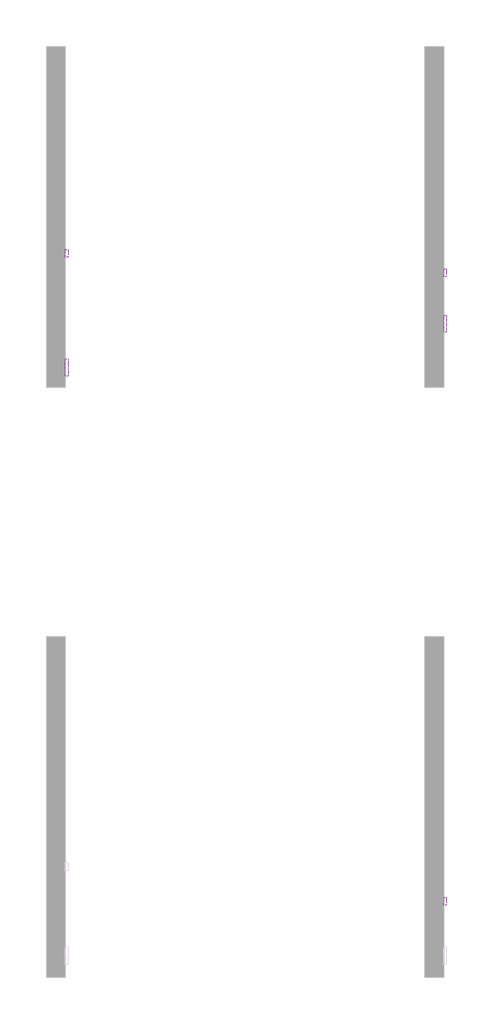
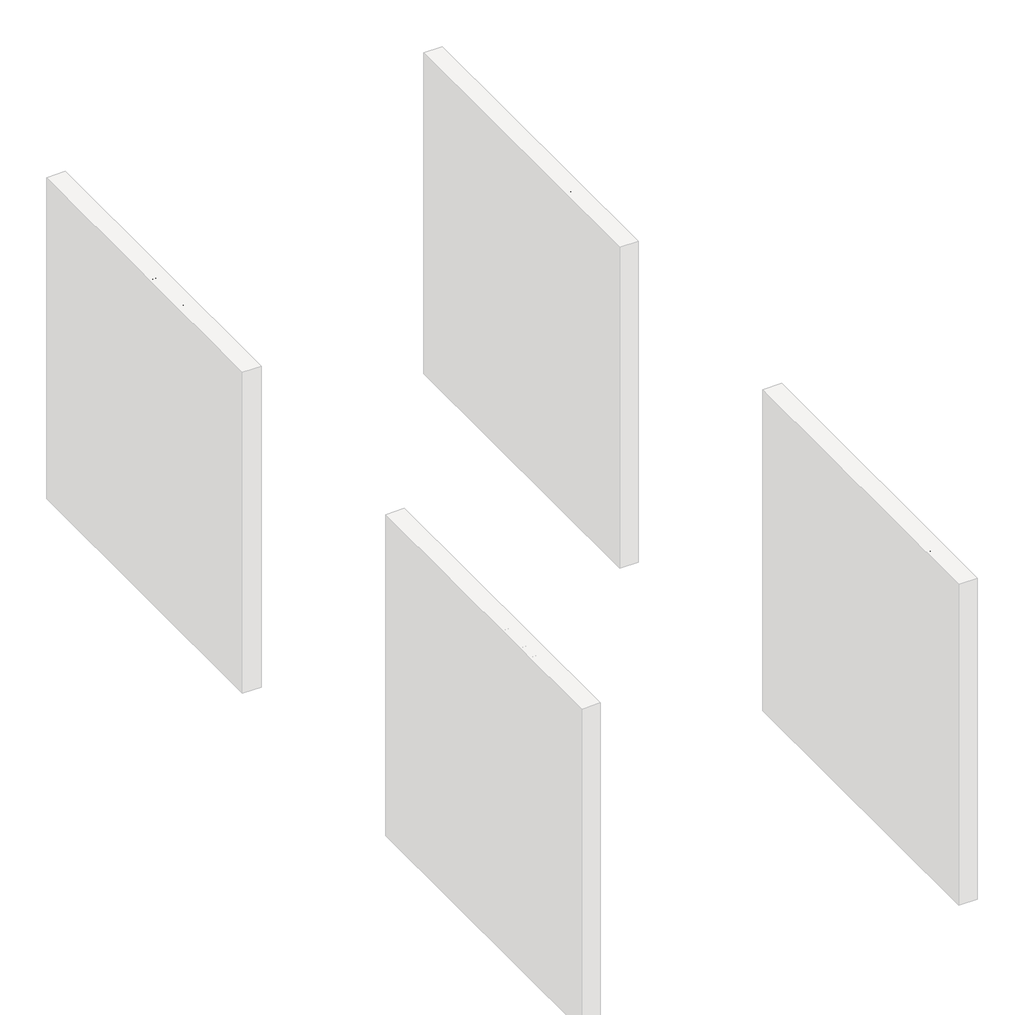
# One storey, part 8 of 12: 5 proxies.
"""IFC4 building model written with IfcOpenShell, lengths in millimetres."""

from ifc_helpers import new_model, si_unit, frame, origin, place, context, project, spatial, polyline, outline, extrude, element, save

model = new_model("IFC4")

# Units and contexts
model_context = context("Model", 3, world=origin())
ifc_project = project(units=[si_unit("LENGTHUNIT", "METRE", prefix="MILLI")], contexts=[model_context])

# Site, building, storey
site = spatial("IfcSite", under=ifc_project)
building = spatial("IfcBuilding", under=site)
storey = spatial("IfcBuildingStorey", under=building, Name="PORTOBELLO - SHOWROOM", Elevation=0.0)

# Proxies
placement = place(None, origin())
element("IfcBuildingElementProxy", 1, Name="10mm Arial", ObjectType="10mm Arial", at=placement, inside=storey, context=model_context, shape_type="SweptSolid", body=[
    extrude(outline(polyline([(6538.9054175, 2521.8608633), (6538.9054175, 2622.3171735), (6576.1350754, 2622.3171735), (6591.1446608, 2621.3606803), (6603.3460803, 2616.6640535), (6611.2555432, 2606.9519688), (6614.2476501, 2593.2544958), (6612.2273648, 2581.414827), (6606.1665089, 2571.5494581), (6594.8326778, 2564.890794), (6576.9934667, 2562.6712393), (6551.4624562, 2562.6712393), (6551.4624562, 2521.8608633), (6538.9054175, 2521.8608633)]), holes=[polyline([(6551.4624562, 2575.2282781), (6577.7292307, 2575.2282781), (6596.2214323, 2579.8390657), (6600.3233166, 2585.3879525), (6601.6906113, 2592.8130374), (6598.4655125, 2603.2118352), (6589.9919639, 2608.9017434), (6577.4349251, 2609.7601347), (6551.4624562, 2609.7601347), (6551.4624562, 2575.2282781)])]), frame((37348.7766485, 0.0, 0.0), z_axis=(1.0, 0.0, 0.0), x_axis=(0.0, 1.0, 0.0)), (0.0, 0.0, 1.0), 20.0),
    extrude(outline(polyline([(37368.7766485, 6642.5009873), (37368.7766485, 6629.9439485), (37348.7766485, 6629.9439485), (37348.7766485, 6642.5009873), (37368.7766485, 6642.5009873)])), frame((0.0, 0.0, 2521.8608633), z_axis=(0.0, 0.0, 1.0), x_axis=(1.0, 0.0, 0.0)), (0.0, 0.0, 1.0), 100.4563101),
    extrude(outline(polyline([(6708.4254408, 2531.2786424), (6696.2485468, 2522.7683056), (6682.7963285, 2520.2912335), (6672.3024946, 2521.7811555), (6664.5616443, 2526.2509218), (6659.7883754, 2533.0383446), (6658.1972858, 2541.4812364), (6660.6007815, 2551.4140503), (6666.9160891, 2558.6245374), (6675.7084687, 2562.7448157), (6686.5732503, 2564.6332766), (6708.3518644, 2568.9497587), (6708.4254408, 2571.7456619), (6704.9673501, 2581.0162881), (6691.0859361, 2584.6460572), (6678.3817446, 2582.2302987), (6672.3239544, 2573.6586482), (6659.7669156, 2575.2282781), (6665.1993064, 2587.4910112), (6676.1376644, 2594.6769729), (6692.7046169, 2597.2030959), (6707.9226688, 2594.9712785), (6716.5188447, 2589.3672094), (6720.369343, 2580.8446099), (6720.9824796, 2569.8572009), (6720.9824796, 2554.2344789), (6721.6201417, 2532.4190766), (6724.1217393, 2521.8608633), (6711.5647005, 2521.8608633), (6708.4254408, 2531.2786424)]), holes=[polyline([(6708.4254408, 2556.3927199), (6688.1674056, 2552.5422217), (6677.3639377, 2550.506608), (6672.4711072, 2547.19567), (6670.7543245, 2542.3641532), (6674.4944582, 2535.570599), (6685.4696043, 2532.8482722), (6698.1737959, 2535.8526419), (6706.3653017, 2543.1244426), (6708.3518644, 2552.8365273), (6708.4254408, 2556.3927199)])]), frame((37348.7766485, 0.0, 0.0), z_axis=(1.0, 0.0, 0.0), x_axis=(0.0, 1.0, 0.0)), (0.0, 0.0, 1.0), 20.0),
    extrude(outline(polyline([(6764.9321153, 2532.3332374), (6766.5017451, 2521.4929813), (6757.1084915, 2520.2912335), (6746.5870665, 2522.3758981), (6741.3386167, 2527.8450771), (6739.8180378, 2542.094373), (6739.8180378, 2583.0764273), (6730.4002587, 2583.0764273), (6730.4002587, 2595.6334661), (6739.8180378, 2595.6334661), (6739.8180378, 2613.561582), (6752.3750765, 2620.9437473), (6752.3750765, 2595.6334661), (6764.9321153, 2595.6334661), (6764.9321153, 2583.0764273), (6752.3750765, 2583.0764273), (6752.3750765, 2542.462255), (6753.0372641, 2535.9875319), (6755.1832424, 2533.6944008), (6759.4629363, 2532.8482722), (6764.9321153, 2532.3332374)])), frame((37348.7766485, 0.0, 0.0), z_axis=(1.0, 0.0, 0.0), x_axis=(0.0, 1.0, 0.0)), (0.0, 0.0, 1.0), 20.0),
    extrude(outline(polyline([(6769.6410048, 2521.8608633), (6769.6410048, 2533.6821381), (6812.9775039, 2583.0764273), (6800.150685, 2583.0764273), (6772.7802645, 2583.0764273), (6772.7802645, 2595.6334661), (6830.8565688, 2595.6334661), (6830.8565688, 2584.9648882), (6792.4251631, 2541.1378799), (6786.5390512, 2534.4179021), (6801.0581272, 2534.4179021), (6832.4261987, 2534.4179021), (6832.4261987, 2521.8608633), (6769.6410048, 2521.8608633)])), frame((37348.7766485, 0.0, 0.0), z_axis=(1.0, 0.0, 0.0), x_axis=(0.0, 1.0, 0.0)), (0.0, 0.0, 1.0), 20.0),
    extrude(outline(polyline([(6903.7707803, 2521.8608633), (6876.3758344, 2622.3171735), (6889.3252806, 2622.3171735), (6905.2177828, 2556.2946181), (6910.1228761, 2535.9139555), (6915.3713259, 2553.9401733), (6935.2860045, 2622.3171735), (6953.9498844, 2622.3171735), (6968.4199096, 2572.751206), (6979.1865893, 2535.9139555), (6983.9445298, 2555.7060069), (6999.9841848, 2622.3171735), (7012.933631, 2622.3171735), (6985.5141596, 2521.8608633), (6972.0987295, 2521.8608633), (6948.0147216, 2599.361337), (6944.6547327, 2610.1770676), (6940.8778109, 2597.154045), (6918.9275185, 2521.8608633), (6903.7707803, 2521.8608633)])), frame((37348.7766485, 0.0, 0.0), z_axis=(1.0, 0.0, 0.0), x_axis=(0.0, 1.0, 0.0)), (0.0, 0.0, 1.0), 20.0),
    extrude(outline(polyline([(7075.571672, 2543.8356812), (7087.8834561, 2542.2660513), (7083.4474124, 2532.9892937), (7076.3687497, 2526.0547181), (7066.8068835, 2521.7321046), (7054.9212294, 2520.2912335), (7040.1875555, 2522.7775026), (7028.8506586, 2530.2363101), (7021.6217774, 2542.1832779), (7019.2121504, 2558.134028), (7021.6463029, 2574.6212728), (7028.9487605, 2586.951451), (7040.1323732, 2594.6401847), (7054.2099908, 2597.2030959), (7067.8492158, 2594.6463161), (7078.7477199, 2586.9759765), (7085.8938277, 2574.6703237), (7088.2758636, 2558.2076044), (7088.2022872, 2554.8230901), (7031.7691891, 2554.8230901), (7033.9427586, 2545.4237051), (7038.991939, 2538.513655), (7046.2790682, 2534.2646179), (7055.166484, 2532.8482722), (7067.4782681, 2535.4724971), (7075.571672, 2543.8356812)]), holes=[polyline([(7031.7691891, 2567.3801288), (7075.7188248, 2567.3801288), (7070.6911042, 2578.7599452), (7063.3702525, 2583.1745292), (7054.1609399, 2584.6460572), (7038.6976334, 2579.9494303), (7033.832394, 2574.4587916), (7031.7691891, 2567.3801288)])]), frame((37348.7766485, 0.0, 0.0), z_axis=(1.0, 0.0, 0.0), x_axis=(0.0, 1.0, 0.0)), (0.0, 0.0, 1.0), 20.0),
    extrude(outline(polyline([(37368.7766485, 7113.3899411), (37368.7766485, 7100.8329024), (37348.7766485, 7100.8329024), (37348.7766485, 7113.3899411), (37368.7766485, 7113.3899411)])), frame((0.0, 0.0, 2609.7601347), z_axis=(0.0, 0.0, 1.0), x_axis=(1.0, 0.0, 0.0)), (0.0, 0.0, 1.0), 12.5570388),
    extrude(outline(polyline([(37368.7766485, 7113.3899411), (37368.7766485, 7100.8329024), (37348.7766485, 7100.8329024), (37348.7766485, 7113.3899411), (37368.7766485, 7113.3899411)])), frame((0.0, 0.0, 2521.8608633), z_axis=(0.0, 0.0, 1.0), x_axis=(1.0, 0.0, 0.0)), (0.0, 0.0, 1.0), 73.7726028),
    extrude(outline(polyline([(7127.5166097, 2543.8356812), (7140.0736485, 2545.405311), (7145.886184, 2536.0856338), (7159.2035123, 2532.8482722), (7172.0058057, 2535.8158537), (7176.175135, 2542.7810861), (7171.9812802, 2548.4219434), (7159.0563595, 2552.0026614), (7140.1472249, 2558.1462908), (7131.8944055, 2565.3199897), (7129.0862396, 2575.4490073), (7131.3425825, 2584.8054727), (7137.4984746, 2591.9546461), (7145.4815138, 2595.6702543), (7156.2849818, 2597.2030959), (7171.5643473, 2594.7382866), (7181.276432, 2588.0673597), (7185.5929141, 2576.7979079), (7173.0358753, 2575.2282781), (7168.314723, 2582.1567223), (7157.2660004, 2584.6460572), (7145.2485219, 2582.2670869), (7141.6432784, 2576.7243315), (7143.1393318, 2573.070037), (7147.8236959, 2570.2986593), (7158.6394265, 2567.6253835), (7177.0703145, 2561.7147461), (7185.6297023, 2555.0192938), (7188.7321737, 2544.1054613), (7185.090142, 2532.0879828), (7174.5809797, 2523.3691795), (7159.031834, 2520.2912335), (7146.370562, 2521.7750242), (7137.1305926, 2526.2263963), (7130.9624378, 2533.596299), (7127.5166097, 2543.8356812)])), frame((37348.7766485, 0.0, 0.0), z_axis=(1.0, 0.0, 0.0), x_axis=(0.0, 1.0, 0.0)), (0.0, 0.0, 1.0), 20.0),
    extrude(outline(polyline([(7198.1499528, 2543.8356812), (7210.7069916, 2545.405311), (7216.5195271, 2536.0856338), (7229.8368553, 2532.8482722), (7242.6391488, 2535.8158537), (7246.8084781, 2542.7810861), (7242.6146233, 2548.4219434), (7229.6897025, 2552.0026614), (7210.780568, 2558.1462908), (7202.5277486, 2565.3199897), (7199.7195827, 2575.4490073), (7201.9759256, 2584.8054727), (7208.1318176, 2591.9546461), (7216.1148569, 2595.6702543), (7226.9183248, 2597.2030959), (7242.1976904, 2594.7382866), (7251.9097751, 2588.0673597), (7256.2262571, 2576.7979079), (7243.6692184, 2575.2282781), (7238.9480661, 2582.1567223), (7227.8993435, 2584.6460572), (7215.881865, 2582.2670869), (7212.2766214, 2576.7243315), (7213.7726749, 2573.070037), (7218.457039, 2570.2986593), (7229.2727696, 2567.6253835), (7247.7036576, 2561.7147461), (7256.2630453, 2555.0192938), (7259.3655168, 2544.1054613), (7255.7234851, 2532.0879828), (7245.2143227, 2523.3691795), (7229.6651771, 2520.2912335), (7217.0039051, 2521.7750242), (7207.7639356, 2526.2263963), (7201.5957808, 2533.596299), (7198.1499528, 2543.8356812)])), frame((37348.7766485, 0.0, 0.0), z_axis=(1.0, 0.0, 0.0), x_axis=(0.0, 1.0, 0.0)), (0.0, 0.0, 1.0), 20.0),
])
element("IfcBuildingElementProxy", 2, Name="10mm Arial", ObjectType="10mm Arial", at=placement, inside=storey, context=model_context, shape_type="SweptSolid", body=[
    extrude(outline(polyline([(6556.8825843, 2521.8608633), (6529.4876384, 2622.3171735), (6542.4370846, 2622.3171735), (6558.3295868, 2556.2946181), (6563.2346801, 2535.9139555), (6568.4831299, 2553.9401733), (6588.3978086, 2622.3171735), (6607.0616884, 2622.3171735), (6621.5317136, 2572.751206), (6632.2983933, 2535.9139555), (6637.0563338, 2555.7060069), (6653.0959888, 2622.3171735), (6666.045435, 2622.3171735), (6638.6259636, 2521.8608633), (6625.2105335, 2521.8608633), (6601.1265256, 2599.361337), (6597.7665367, 2610.1770676), (6593.9896149, 2597.154045), (6572.0393225, 2521.8608633), (6556.8825843, 2521.8608633)])), frame((34348.7766485, 0.0, 0.0), z_axis=(1.0, 0.0, 0.0), x_axis=(0.0, 1.0, 0.0)), (0.0, 0.0, 1.0), 20.0),
    extrude(outline(polyline([(6728.683476, 2543.8356812), (6740.9952601, 2542.2660513), (6736.5592164, 2532.9892937), (6729.4805537, 2526.0547181), (6719.9186875, 2521.7321046), (6708.0330334, 2520.2912335), (6693.2993595, 2522.7775026), (6681.9624627, 2530.2363101), (6674.7335815, 2542.1832779), (6672.3239544, 2558.134028), (6674.7581069, 2574.6212728), (6682.0605645, 2586.951451), (6693.2441772, 2594.6401847), (6707.3217949, 2597.2030959), (6720.9610198, 2594.6463161), (6731.8595239, 2586.9759765), (6739.0056317, 2574.6703237), (6741.3876676, 2558.2076044), (6741.3140912, 2554.8230901), (6684.8809932, 2554.8230901), (6687.0545626, 2545.4237051), (6692.103743, 2538.513655), (6699.3908722, 2534.2646179), (6708.278288, 2532.8482722), (6720.5900722, 2535.4724971), (6728.683476, 2543.8356812)]), holes=[polyline([(6684.8809932, 2567.3801288), (6728.8306288, 2567.3801288), (6723.8029082, 2578.7599452), (6716.4820565, 2583.1745292), (6707.2727439, 2584.6460572), (6691.8094374, 2579.9494303), (6686.944198, 2574.4587916), (6684.8809932, 2567.3801288)])]), frame((34348.7766485, 0.0, 0.0), z_axis=(1.0, 0.0, 0.0), x_axis=(0.0, 1.0, 0.0)), (0.0, 0.0, 1.0), 20.0),
    extrude(outline(polyline([(34368.7766485, 6766.5017451), (34368.7766485, 6753.9447064), (34348.7766485, 6753.9447064), (34348.7766485, 6766.5017451), (34368.7766485, 6766.5017451)])), frame((0.0, 0.0, 2609.7601347), z_axis=(0.0, 0.0, 1.0), x_axis=(1.0, 0.0, 0.0)), (0.0, 0.0, 1.0), 12.5570388),
    extrude(outline(polyline([(34368.7766485, 6766.5017451), (34368.7766485, 6753.9447064), (34348.7766485, 6753.9447064), (34348.7766485, 6766.5017451), (34368.7766485, 6766.5017451)])), frame((0.0, 0.0, 2521.8608633), z_axis=(0.0, 0.0, 1.0), x_axis=(1.0, 0.0, 0.0)), (0.0, 0.0, 1.0), 73.7726028),
    extrude(outline(polyline([(6780.6284138, 2543.8356812), (6793.1854525, 2545.405311), (6798.9979881, 2536.0856338), (6812.3153163, 2532.8482722), (6825.1176097, 2535.8158537), (6829.286939, 2542.7810861), (6825.0930842, 2548.4219434), (6812.1681635, 2552.0026614), (6793.2590289, 2558.1462908), (6785.0062095, 2565.3199897), (6782.1980436, 2575.4490073), (6784.4543865, 2584.8054727), (6790.6102786, 2591.9546461), (6798.5933179, 2595.6702543), (6809.3967858, 2597.2030959), (6824.6761513, 2594.7382866), (6834.388236, 2588.0673597), (6838.7047181, 2576.7979079), (6826.1476793, 2575.2282781), (6821.426527, 2582.1567223), (6810.3778044, 2584.6460572), (6798.3603259, 2582.2670869), (6794.7550824, 2576.7243315), (6796.2511358, 2573.070037), (6800.9354999, 2570.2986593), (6811.7512306, 2567.6253835), (6830.1821185, 2561.7147461), (6838.7415063, 2555.0192938), (6841.8439778, 2544.1054613), (6838.201946, 2532.0879828), (6827.6927837, 2523.3691795), (6812.143638, 2520.2912335), (6799.482366, 2521.7750242), (6790.2423966, 2526.2263963), (6784.0742418, 2533.596299), (6780.6284138, 2543.8356812)])), frame((34348.7766485, 0.0, 0.0), z_axis=(1.0, 0.0, 0.0), x_axis=(0.0, 1.0, 0.0)), (0.0, 0.0, 1.0), 20.0),
    extrude(outline(polyline([(6851.2617568, 2543.8356812), (6863.8187956, 2545.405311), (6869.6313311, 2536.0856338), (6882.9486594, 2532.8482722), (6895.7509528, 2535.8158537), (6899.9202821, 2542.7810861), (6895.7264273, 2548.4219434), (6882.8015066, 2552.0026614), (6863.892372, 2558.1462908), (6855.6395526, 2565.3199897), (6852.8313867, 2575.4490073), (6855.0877296, 2584.8054727), (6861.2436216, 2591.9546461), (6869.2266609, 2595.6702543), (6880.0301289, 2597.2030959), (6895.3094944, 2594.7382866), (6905.0215791, 2588.0673597), (6909.3380611, 2576.7979079), (6896.7810224, 2575.2282781), (6892.0598701, 2582.1567223), (6881.0111475, 2584.6460572), (6868.993669, 2582.2670869), (6865.3884255, 2576.7243315), (6866.8844789, 2573.070037), (6871.568843, 2570.2986593), (6882.3845736, 2567.6253835), (6900.8154616, 2561.7147461), (6909.3748493, 2555.0192938), (6912.4773208, 2544.1054613), (6908.8352891, 2532.0879828), (6898.3261268, 2523.3691795), (6882.7769811, 2520.2912335), (6870.1157091, 2521.7750242), (6860.8757396, 2526.2263963), (6854.7075849, 2533.596299), (6851.2617568, 2543.8356812)])), frame((34348.7766485, 0.0, 0.0), z_axis=(1.0, 0.0, 0.0), x_axis=(0.0, 1.0, 0.0)), (0.0, 0.0, 1.0), 20.0),
    extrude(outline(polyline([(6967.4143654, 2521.8608633), (6967.4143654, 2622.3171735), (7034.9084488, 2622.3171735), (7034.9084488, 2609.7601347), (6979.9714042, 2609.7601347), (6979.9714042, 2579.9371676), (7027.0602996, 2579.9371676), (7027.0602996, 2567.3801288), (6979.9714042, 2567.3801288), (6979.9714042, 2521.8608633), (6967.4143654, 2521.8608633)])), frame((34348.7766485, 0.0, 0.0), z_axis=(1.0, 0.0, 0.0), x_axis=(0.0, 1.0, 0.0)), (0.0, 0.0, 1.0), 20.0),
    extrude(outline(polyline([(34368.7766485, 7063.1617861), (34368.7766485, 7050.6047473), (34348.7766485, 7050.6047473), (34348.7766485, 7063.1617861), (34368.7766485, 7063.1617861)])), frame((0.0, 0.0, 2521.8608633), z_axis=(0.0, 0.0, 1.0), x_axis=(1.0, 0.0, 0.0)), (0.0, 0.0, 1.0), 100.4563101),
    extrude(outline(polyline([(7129.0862396, 2531.2786424), (7116.9093456, 2522.7683056), (7103.4571273, 2520.2912335), (7092.9632934, 2521.7811555), (7085.222443, 2526.2509218), (7080.4491741, 2533.0383446), (7078.8580845, 2541.4812364), (7081.2615802, 2551.4140503), (7087.5768878, 2558.6245374), (7096.3692675, 2562.7448157), (7107.2340491, 2564.6332766), (7129.0126632, 2568.9497587), (7129.0862396, 2571.7456619), (7125.6281488, 2581.0162881), (7111.7467349, 2584.6460572), (7099.0425433, 2582.2302987), (7092.9847531, 2573.6586482), (7080.4277144, 2575.2282781), (7085.8601052, 2587.4910112), (7096.7984632, 2594.6769729), (7113.3654157, 2597.2030959), (7128.5834675, 2594.9712785), (7137.1796435, 2589.3672094), (7141.0301417, 2580.8446099), (7141.6432784, 2569.8572009), (7141.6432784, 2554.2344789), (7142.2809405, 2532.4190766), (7144.7825381, 2521.8608633), (7132.2254993, 2521.8608633), (7129.0862396, 2531.2786424)]), holes=[polyline([(7129.0862396, 2556.3927199), (7108.8282044, 2552.5422217), (7098.0247365, 2550.506608), (7093.1319059, 2547.19567), (7091.4151233, 2542.3641532), (7095.1552569, 2535.570599), (7106.1304031, 2532.8482722), (7118.8345947, 2535.8526419), (7127.0261004, 2543.1244426), (7129.0126632, 2552.8365273), (7129.0862396, 2556.3927199)])]), frame((34348.7766485, 0.0, 0.0), z_axis=(1.0, 0.0, 0.0), x_axis=(0.0, 1.0, 0.0)), (0.0, 0.0, 1.0), 20.0),
    extrude(outline(polyline([(7158.9092067, 2521.8608633), (7158.9092067, 2595.6334661), (7171.4662454, 2595.6334661), (7171.4662454, 2583.4933602), (7180.0992096, 2593.4384368), (7192.3864682, 2597.2030959), (7204.9680325, 2593.3648604), (7211.884214, 2582.6104434), (7221.6821378, 2593.5549328), (7234.0552356, 2597.2030959), (7243.4944744, 2595.6855827), (7250.4750353, 2591.133043), (7254.7884517, 2583.4228495), (7256.2262571, 2572.4323749), (7256.2262571, 2521.8608633), (7243.6692184, 2521.8608633), (7243.6692184, 2567.0367723), (7242.5042587, 2577.5214092), (7238.2858785, 2582.6840198), (7231.1121796, 2584.6460572), (7218.7636073, 2579.6183366), (7215.0755903, 2573.0761684), (7213.8462513, 2563.5051052), (7213.8462513, 2521.8608633), (7201.2892125, 2521.8608633), (7201.2892125, 2568.4347239), (7198.3829448, 2580.5993552), (7188.8548011, 2584.6460572), (7179.5596493, 2581.9482559), (7173.3792318, 2574.0510557), (7171.4662454, 2559.0659958), (7171.4662454, 2521.8608633), (7158.9092067, 2521.8608633)])), frame((34348.7766485, 0.0, 0.0), z_axis=(1.0, 0.0, 0.0), x_axis=(0.0, 1.0, 0.0)), (0.0, 0.0, 1.0), 20.0),
    extrude(outline(polyline([(7326.7124474, 2543.8356812), (7339.0242315, 2542.2660513), (7334.5881878, 2532.9892937), (7327.5095251, 2526.0547181), (7317.9476589, 2521.7321046), (7306.0620047, 2520.2912335), (7291.3283308, 2522.7775026), (7279.991434, 2530.2363101), (7272.7625528, 2542.1832779), (7270.3529257, 2558.134028), (7272.7870783, 2574.6212728), (7280.0895359, 2586.951451), (7291.2731485, 2594.6401847), (7305.3507662, 2597.2030959), (7318.9899912, 2594.6463161), (7329.8884953, 2586.9759765), (7337.0346031, 2574.6703237), (7339.416639, 2558.2076044), (7339.3430626, 2554.8230901), (7282.9099645, 2554.8230901), (7285.083534, 2545.4237051), (7290.1327144, 2538.513655), (7297.4198435, 2534.2646179), (7306.3072594, 2532.8482722), (7318.6190435, 2535.4724971), (7326.7124474, 2543.8356812)]), holes=[polyline([(7282.9099645, 2567.3801288), (7326.8596002, 2567.3801288), (7321.8318796, 2578.7599452), (7314.5110279, 2583.1745292), (7305.3017153, 2584.6460572), (7289.8384088, 2579.9494303), (7284.9731694, 2574.4587916), (7282.9099645, 2567.3801288)])]), frame((34348.7766485, 0.0, 0.0), z_axis=(1.0, 0.0, 0.0), x_axis=(0.0, 1.0, 0.0)), (0.0, 0.0, 1.0), 20.0),
    extrude(outline(polyline([(7347.2647882, 2543.8356812), (7359.821827, 2545.405311), (7365.6343625, 2536.0856338), (7378.9516907, 2532.8482722), (7391.7539842, 2535.8158537), (7395.9233134, 2542.7810861), (7391.7294587, 2548.4219434), (7378.8045379, 2552.0026614), (7359.8954034, 2558.1462908), (7351.6425839, 2565.3199897), (7348.834418, 2575.4490073), (7351.090761, 2584.8054727), (7357.246653, 2591.9546461), (7365.2296923, 2595.6702543), (7376.0331602, 2597.2030959), (7391.3125258, 2594.7382866), (7401.0246104, 2588.0673597), (7405.3410925, 2576.7979079), (7392.7840537, 2575.2282781), (7388.0629015, 2582.1567223), (7377.0141789, 2584.6460572), (7364.9967004, 2582.2670869), (7361.3914568, 2576.7243315), (7362.8875103, 2573.070037), (7367.5718743, 2570.2986593), (7378.387605, 2567.6253835), (7396.818493, 2561.7147461), (7405.3778807, 2555.0192938), (7408.4803522, 2544.1054613), (7404.8383204, 2532.0879828), (7394.3291581, 2523.3691795), (7378.7800125, 2520.2912335), (7366.1187405, 2521.7750242), (7356.878771, 2526.2263963), (7350.7106162, 2533.596299), (7347.2647882, 2543.8356812)])), frame((34348.7766485, 0.0, 0.0), z_axis=(1.0, 0.0, 0.0), x_axis=(0.0, 1.0, 0.0)), (0.0, 0.0, 1.0), 20.0),
])
element("IfcBuildingElementProxy", 3, Name="10mm Arial Narrow", ObjectType="10mm Arial Narrow", at=placement, inside=storey, context=model_context, shape_type="SweptSolid", body=[
    extrude(outline(polyline([(7316.0404766, 2521.8608633), (7316.0404766, 2622.5794671), (7347.3373613, 2622.5794671), (7363.6330628, 2620.7011463), (7375.1060489, 2611.2207032), (7379.3957273, 2594.2015943), (7377.6094189, 2582.1257688), (7372.2504937, 2572.499375), (7362.5067049, 2566.1981166), (7347.5658057, 2564.0976971), (7325.7874382, 2564.0976971), (7325.7874382, 2521.8608633), (7316.0404766, 2521.8608633)]), holes=[polyline([(7325.7874382, 2575.4691524), (7348.7587932, 2575.4691524), (7364.6229886, 2579.9999666), (7369.6487657, 2593.6685574), (7367.1739512, 2603.8343338), (7361.1963224, 2609.6342836), (7348.5303488, 2611.2080118), (7325.7874382, 2611.2080118), (7325.7874382, 2575.4691524)])]), frame((37348.7766485, 0.0, 0.0), z_axis=(1.0, 0.0, 0.0), x_axis=(0.0, 1.0, 0.0)), (0.0, 0.0, 1.0), 20.0),
    extrude(outline(polyline([(7387.5181954, 2558.4119695), (7389.4726643, 2575.0027451), (7395.3360709, 2586.9548299), (7404.1946376, 2594.1793845), (7415.1345867, 2596.5875693), (7425.9476223, 2594.1793845), (7434.8315717, 2586.9548299), (7440.7711265, 2575.1931154), (7442.7509781, 2559.1734509), (7440.8060277, 2542.0115643), (7434.9711767, 2529.8691091), (7426.1221285, 2522.6445546), (7415.1345867, 2520.2363697), (7404.2739586, 2522.6509002), (7395.3995277, 2529.8944919), (7389.4885284, 2541.8529224), (7387.5181954, 2558.4119695)]), holes=[polyline([(7397.265157, 2558.4373522), (7398.5691939, 2545.8856008), (7402.4813045, 2537.0143428), (7408.3225012, 2531.7410842), (7415.4137966, 2529.9833314), (7422.1338697, 2531.7569484), (7427.8259431, 2537.0777995), (7431.7094981, 2545.9649218), (7433.0040164, 2558.4373522), (7431.6999796, 2570.9510296), (7427.787869, 2579.8095963), (7421.9466722, 2585.0828548), (7414.8553769, 2586.8406077), (7408.0877111, 2585.0733363), (7402.4051563, 2579.7715222), (7398.5501569, 2570.903437), (7397.265157, 2558.4373522)])]), frame((37348.7766485, 0.0, 0.0), z_axis=(1.0, 0.0, 0.0), x_axis=(0.0, 1.0, 0.0)), (0.0, 0.0, 1.0), 20.0),
    extrude(outline(polyline([(7514.2286969, 2529.9833314), (7515.8531905, 2520.2363697), (7508.4922038, 2520.2363697), (7500.2174395, 2522.3558262), (7495.9023784, 2528.155776), (7494.7347736, 2542.8016012), (7494.7347736, 2585.2161141), (7486.6123055, 2585.2161141), (7486.6123055, 2588.4651013), (7484.9878119, 2583.5916204), (7477.4237635, 2585.2161141), (7471.3446039, 2582.8935958), (7467.4737402, 2576.4083128), (7465.4938886, 2561.0010062), (7465.4938886, 2521.8608633), (7455.746927, 2521.8608633), (7455.746927, 2594.9630757), (7465.4938886, 2594.9630757), (7465.4938886, 2585.2668795), (7471.7380359, 2594.3538906), (7478.1344795, 2596.5875693), (7486.6123055, 2594.9630757), (7494.7347736, 2594.9630757), (7494.7347736, 2611.2080118), (7504.4817352, 2619.3304798), (7504.4817352, 2594.9630757), (7514.2286969, 2594.9630757), (7514.2286969, 2585.2161141), (7504.4817352, 2585.2161141), (7504.4817352, 2540.5679225), (7505.3447475, 2532.572368), (7509.9644012, 2529.9833314), (7514.2286969, 2529.9833314)])), frame((37348.7766485, 0.0, 0.0), z_axis=(1.0, 0.0, 0.0), x_axis=(0.0, 1.0, 0.0)), (0.0, 0.0, 1.0), 20.0),
    extrude(outline(polyline([(7520.7266713, 2558.4119695), (7522.6811402, 2575.0027451), (7528.5445468, 2586.9548299), (7537.4031135, 2594.1793845), (7548.3430627, 2596.5875693), (7559.1560982, 2594.1793845), (7568.0400477, 2586.9548299), (7573.9796024, 2575.1931154), (7575.959454, 2559.1734509), (7574.0145037, 2542.0115643), (7568.1796526, 2529.8691091), (7559.3306044, 2522.6445546), (7548.3430627, 2520.2363697), (7537.4824345, 2522.6509002), (7528.6080036, 2529.8944919), (7522.6970044, 2541.8529224), (7520.7266713, 2558.4119695)]), holes=[polyline([(7530.473633, 2558.4373522), (7531.7776698, 2545.8856008), (7535.6897804, 2537.0143428), (7541.5309772, 2531.7410842), (7548.6222725, 2529.9833314), (7555.3423457, 2531.7569484), (7561.034419, 2537.0777995), (7564.917974, 2545.9649218), (7566.2124924, 2558.4373522), (7564.9084555, 2570.9510296), (7560.9963449, 2579.8095963), (7555.1551482, 2585.0828548), (7548.0638528, 2586.8406077), (7541.2961871, 2585.0733363), (7535.6136323, 2579.7715222), (7531.7586328, 2570.903437), (7530.473633, 2558.4373522)])]), frame((37348.7766485, 0.0, 0.0), z_axis=(1.0, 0.0, 0.0), x_axis=(0.0, 1.0, 0.0)), (0.0, 0.0, 1.0), 20.0),
    extrude(outline(polyline([(7598.7023645, 2521.8608633), (7588.9554029, 2521.8608633), (7588.9554029, 2622.5794671), (7598.7023645, 2622.5794671), (7598.7023645, 2587.1705829), (7606.1014253, 2594.2523598), (7615.3026586, 2596.5875693), (7628.1843853, 2592.3867304), (7637.4617667, 2579.6573), (7640.9391984, 2558.9703892), (7639.0069394, 2542.5160457), (7633.2101624, 2530.3133066), (7624.83704, 2522.7556039), (7615.175745, 2520.2363697), (7605.8349068, 2522.8507891), (7598.7023645, 2530.6178992), (7598.7023645, 2521.8608633)]), holes=[polyline([(7598.7023645, 2558.9703892), (7600.783747, 2541.7228359), (7606.6725363, 2532.9911828), (7615.1249796, 2529.9833314), (7621.0677072, 2531.7728126), (7626.3060645, 2537.1412563), (7631.1922367, 2558.5642658), (7626.4837435, 2579.9999666), (7621.2390405, 2585.1304474), (7614.9219179, 2586.8406077), (7608.9442891, 2585.0511264), (7603.6519935, 2579.6826827), (7598.7023645, 2558.9703892)])]), frame((37348.7766485, 0.0, 0.0), z_axis=(1.0, 0.0, 0.0), x_axis=(0.0, 1.0, 0.0)), (0.0, 0.0, 1.0), 20.0),
    extrude(outline(polyline([(7692.9229939, 2544.6037738), (7702.6699555, 2542.9792802), (7698.9704251, 2533.0927137), (7693.1514383, 2525.9728628), (7685.447785, 2521.670493), (7676.0942554, 2520.2363697), (7664.5007014, 2522.6509002), (7655.3565792, 2529.8944919), (7649.4170244, 2541.7006261), (7647.4371728, 2557.8027844), (7649.4265429, 2574.4697081), (7655.3946532, 2586.6502373), (7664.408689, 2594.1032363), (7675.5358357, 2596.5875693), (7686.2187849, 2594.188903), (7694.9663022, 2586.9929039), (7700.8011533, 2575.2533993), (7702.7461036, 2559.2242163), (7702.6699555, 2555.9752291), (7657.1841345, 2555.9752291), (7663.187146, 2536.5320712), (7669.1171822, 2531.6205163), (7676.2211689, 2529.9833314), (7686.3996367, 2533.638442), (7692.9229939, 2544.6037738)]), holes=[polyline([(7657.844085, 2565.7221907), (7692.9229939, 2565.7221907), (7688.6586981, 2579.9872753), (7682.8333656, 2585.1272746), (7675.6119838, 2586.8406077), (7663.4028991, 2581.1294973), (7657.844085, 2565.7221907)])]), frame((37348.7766485, 0.0, 0.0), z_axis=(1.0, 0.0, 0.0), x_axis=(0.0, 1.0, 0.0)), (0.0, 0.0, 1.0), 20.0),
    extrude(outline(polyline([(37368.7766485, 7725.412866), (37368.7766485, 7715.6659044), (37348.7766485, 7715.6659044), (37348.7766485, 7725.412866), (37368.7766485, 7725.412866)])), frame((0.0, 0.0, 2521.8608633), z_axis=(0.0, 0.0, 1.0), x_axis=(1.0, 0.0, 0.0)), (0.0, 0.0, 1.0), 100.7186038),
    extrude(outline(polyline([(37368.7766485, 7751.4047638), (37368.7766485, 7741.6578021), (37348.7766485, 7741.6578021), (37348.7766485, 7751.4047638), (37368.7766485, 7751.4047638)])), frame((0.0, 0.0, 2521.8608633), z_axis=(0.0, 0.0, 1.0), x_axis=(1.0, 0.0, 0.0)), (0.0, 0.0, 1.0), 100.7186038),
    extrude(outline(polyline([(7762.776219, 2558.4119695), (7764.7306879, 2575.0027451), (7770.5940945, 2586.9548299), (7779.4526612, 2594.1793845), (7790.3926104, 2596.5875693), (7801.205646, 2594.1793845), (7810.0895954, 2586.9548299), (7816.0291502, 2575.1931154), (7818.0090017, 2559.1734509), (7816.0640514, 2542.0115643), (7810.2292003, 2529.8691091), (7801.3801521, 2522.6445546), (7790.3926104, 2520.2363697), (7779.5319822, 2522.6509002), (7770.6575513, 2529.8944919), (7764.7465521, 2541.8529224), (7762.776219, 2558.4119695)]), holes=[polyline([(7772.5231807, 2558.4373522), (7773.8272176, 2545.8856008), (7777.7393281, 2537.0143428), (7783.5805249, 2531.7410842), (7790.6718202, 2529.9833314), (7797.3918934, 2531.7569484), (7803.0839667, 2537.0777995), (7806.9675217, 2545.9649218), (7808.2620401, 2558.4373522), (7806.9580032, 2570.9510296), (7803.0458926, 2579.8095963), (7797.2046959, 2585.0828548), (7790.1134006, 2586.8406077), (7783.3457348, 2585.0733363), (7777.66318, 2579.7715222), (7773.8081805, 2570.903437), (7772.5231807, 2558.4373522)])]), frame((37348.7766485, 0.0, 0.0), z_axis=(1.0, 0.0, 0.0), x_axis=(0.0, 1.0, 0.0)), (0.0, 0.0, 1.0), 20.0),
])
element("IfcBuildingElementProxy", 4, Name="10mm Arial Narrow", ObjectType="10mm Arial Narrow", at=placement, inside=storey, context=model_context, shape_type="SweptSolid", body=[
    extrude(outline(polyline([(7471.0404766, 2521.8608633), (7471.0404766, 2622.5794671), (7502.3373613, 2622.5794671), (7518.6330628, 2620.7011463), (7530.1060489, 2611.2207032), (7534.3957273, 2594.2015943), (7532.6094189, 2582.1257688), (7527.2504937, 2572.499375), (7517.5067049, 2566.1981166), (7502.5658057, 2564.0976971), (7480.7874382, 2564.0976971), (7480.7874382, 2521.8608633), (7471.0404766, 2521.8608633)]), holes=[polyline([(7480.7874382, 2575.4691524), (7503.7587932, 2575.4691524), (7519.6229886, 2579.9999666), (7524.6487657, 2593.6685574), (7522.1739512, 2603.8343338), (7516.1963224, 2609.6342836), (7503.5303488, 2611.2080118), (7480.7874382, 2611.2080118), (7480.7874382, 2575.4691524)])]), frame((34348.7766485, 0.0, 0.0), z_axis=(1.0, 0.0, 0.0), x_axis=(0.0, 1.0, 0.0)), (0.0, 0.0, 1.0), 20.0),
    extrude(outline(polyline([(7542.5181954, 2558.4119695), (7544.4726643, 2575.0027451), (7550.3360709, 2586.9548299), (7559.1946376, 2594.1793845), (7570.1345867, 2596.5875693), (7580.9476223, 2594.1793845), (7589.8315717, 2586.9548299), (7595.7711265, 2575.1931154), (7597.7509781, 2559.1734509), (7595.8060277, 2542.0115643), (7589.9711767, 2529.8691091), (7581.1221285, 2522.6445546), (7570.1345867, 2520.2363697), (7559.2739586, 2522.6509002), (7550.3995277, 2529.8944919), (7544.4885284, 2541.8529224), (7542.5181954, 2558.4119695)]), holes=[polyline([(7552.265157, 2558.4373522), (7553.5691939, 2545.8856008), (7557.4813045, 2537.0143428), (7563.3225012, 2531.7410842), (7570.4137966, 2529.9833314), (7577.1338697, 2531.7569484), (7582.8259431, 2537.0777995), (7586.7094981, 2545.9649218), (7588.0040164, 2558.4373522), (7586.6999796, 2570.9510296), (7582.787869, 2579.8095963), (7576.9466722, 2585.0828548), (7569.8553769, 2586.8406077), (7563.0877111, 2585.0733363), (7557.4051563, 2579.7715222), (7553.5501569, 2570.903437), (7552.265157, 2558.4373522)])]), frame((34348.7766485, 0.0, 0.0), z_axis=(1.0, 0.0, 0.0), x_axis=(0.0, 1.0, 0.0)), (0.0, 0.0, 1.0), 20.0),
    extrude(outline(polyline([(7669.2286969, 2529.9833314), (7670.8531905, 2520.2363697), (7663.4922038, 2520.2363697), (7655.2174395, 2522.3558262), (7650.9023784, 2528.155776), (7649.7347736, 2542.8016012), (7649.7347736, 2585.2161141), (7641.6123055, 2585.2161141), (7641.6123055, 2588.4651013), (7639.9878119, 2583.5916204), (7632.4237635, 2585.2161141), (7626.3446039, 2582.8935958), (7622.4737402, 2576.4083128), (7620.4938886, 2561.0010062), (7620.4938886, 2521.8608633), (7610.746927, 2521.8608633), (7610.746927, 2594.9630757), (7620.4938886, 2594.9630757), (7620.4938886, 2585.2668795), (7626.7380359, 2594.3538906), (7633.1344795, 2596.5875693), (7641.6123055, 2594.9630757), (7649.7347736, 2594.9630757), (7649.7347736, 2611.2080118), (7659.4817352, 2619.3304798), (7659.4817352, 2594.9630757), (7669.2286969, 2594.9630757), (7669.2286969, 2585.2161141), (7659.4817352, 2585.2161141), (7659.4817352, 2540.5679225), (7660.3447475, 2532.572368), (7664.9644012, 2529.9833314), (7669.2286969, 2529.9833314)])), frame((34348.7766485, 0.0, 0.0), z_axis=(1.0, 0.0, 0.0), x_axis=(0.0, 1.0, 0.0)), (0.0, 0.0, 1.0), 20.0),
    extrude(outline(polyline([(7675.7266713, 2558.4119695), (7677.6811402, 2575.0027451), (7683.5445468, 2586.9548299), (7692.4031135, 2594.1793845), (7703.3430627, 2596.5875693), (7714.1560982, 2594.1793845), (7723.0400477, 2586.9548299), (7728.9796024, 2575.1931154), (7730.959454, 2559.1734509), (7729.0145037, 2542.0115643), (7723.1796526, 2529.8691091), (7714.3306044, 2522.6445546), (7703.3430627, 2520.2363697), (7692.4824345, 2522.6509002), (7683.6080036, 2529.8944919), (7677.6970044, 2541.8529224), (7675.7266713, 2558.4119695)]), holes=[polyline([(7685.473633, 2558.4373522), (7686.7776698, 2545.8856008), (7690.6897804, 2537.0143428), (7696.5309772, 2531.7410842), (7703.6222725, 2529.9833314), (7710.3423457, 2531.7569484), (7716.034419, 2537.0777995), (7719.917974, 2545.9649218), (7721.2124924, 2558.4373522), (7719.9084555, 2570.9510296), (7715.9963449, 2579.8095963), (7710.1551482, 2585.0828548), (7703.0638528, 2586.8406077), (7696.2961871, 2585.0733363), (7690.6136323, 2579.7715222), (7686.7586328, 2570.903437), (7685.473633, 2558.4373522)])]), frame((34348.7766485, 0.0, 0.0), z_axis=(1.0, 0.0, 0.0), x_axis=(0.0, 1.0, 0.0)), (0.0, 0.0, 1.0), 20.0),
    extrude(outline(polyline([(7753.7023645, 2521.8608633), (7743.9554029, 2521.8608633), (7743.9554029, 2622.5794671), (7753.7023645, 2622.5794671), (7753.7023645, 2587.1705829), (7761.1014253, 2594.2523598), (7770.3026586, 2596.5875693), (7783.1843853, 2592.3867304), (7792.4617667, 2579.6573), (7795.9391984, 2558.9703892), (7794.0069394, 2542.5160457), (7788.2101624, 2530.3133066), (7779.83704, 2522.7556039), (7770.175745, 2520.2363697), (7760.8349068, 2522.8507891), (7753.7023645, 2530.6178992), (7753.7023645, 2521.8608633)]), holes=[polyline([(7753.7023645, 2558.9703892), (7755.783747, 2541.7228359), (7761.6725363, 2532.9911828), (7770.1249796, 2529.9833314), (7776.0677072, 2531.7728126), (7781.3060645, 2537.1412563), (7786.1922367, 2558.5642658), (7781.4837435, 2579.9999666), (7776.2390405, 2585.1304474), (7769.9219179, 2586.8406077), (7763.9442891, 2585.0511264), (7758.6519935, 2579.6826827), (7753.7023645, 2558.9703892)])]), frame((34348.7766485, 0.0, 0.0), z_axis=(1.0, 0.0, 0.0), x_axis=(0.0, 1.0, 0.0)), (0.0, 0.0, 1.0), 20.0),
    extrude(outline(polyline([(7847.9229939, 2544.6037738), (7857.6699555, 2542.9792802), (7853.9704251, 2533.0927137), (7848.1514383, 2525.9728628), (7840.447785, 2521.670493), (7831.0942554, 2520.2363697), (7819.5007014, 2522.6509002), (7810.3565792, 2529.8944919), (7804.4170244, 2541.7006261), (7802.4371728, 2557.8027844), (7804.4265429, 2574.4697081), (7810.3946532, 2586.6502373), (7819.408689, 2594.1032363), (7830.5358357, 2596.5875693), (7841.2187849, 2594.188903), (7849.9663022, 2586.9929039), (7855.8011533, 2575.2533993), (7857.7461036, 2559.2242163), (7857.6699555, 2555.9752291), (7812.1841345, 2555.9752291), (7818.187146, 2536.5320712), (7824.1171822, 2531.6205163), (7831.2211689, 2529.9833314), (7841.3996367, 2533.638442), (7847.9229939, 2544.6037738)]), holes=[polyline([(7812.844085, 2565.7221907), (7847.9229939, 2565.7221907), (7843.6586981, 2579.9872753), (7837.8333656, 2585.1272746), (7830.6119838, 2586.8406077), (7818.4028991, 2581.1294973), (7812.844085, 2565.7221907)])]), frame((34348.7766485, 0.0, 0.0), z_axis=(1.0, 0.0, 0.0), x_axis=(0.0, 1.0, 0.0)), (0.0, 0.0, 1.0), 20.0),
    extrude(outline(polyline([(34368.7766485, 7880.412866), (34368.7766485, 7870.6659044), (34348.7766485, 7870.6659044), (34348.7766485, 7880.412866), (34368.7766485, 7880.412866)])), frame((0.0, 0.0, 2521.8608633), z_axis=(0.0, 0.0, 1.0), x_axis=(1.0, 0.0, 0.0)), (0.0, 0.0, 1.0), 100.7186038),
    extrude(outline(polyline([(34368.7766485, 7906.4047638), (34368.7766485, 7896.6578021), (34348.7766485, 7896.6578021), (34348.7766485, 7906.4047638), (34368.7766485, 7906.4047638)])), frame((0.0, 0.0, 2521.8608633), z_axis=(0.0, 0.0, 1.0), x_axis=(1.0, 0.0, 0.0)), (0.0, 0.0, 1.0), 100.7186038),
    extrude(outline(polyline([(7917.776219, 2558.4119695), (7919.7306879, 2575.0027451), (7925.5940945, 2586.9548299), (7934.4526612, 2594.1793845), (7945.3926104, 2596.5875693), (7956.205646, 2594.1793845), (7965.0895954, 2586.9548299), (7971.0291502, 2575.1931154), (7973.0090017, 2559.1734509), (7971.0640514, 2542.0115643), (7965.2292003, 2529.8691091), (7956.3801521, 2522.6445546), (7945.3926104, 2520.2363697), (7934.5319822, 2522.6509002), (7925.6575513, 2529.8944919), (7919.7465521, 2541.8529224), (7917.776219, 2558.4119695)]), holes=[polyline([(7927.5231807, 2558.4373522), (7928.8272176, 2545.8856008), (7932.7393281, 2537.0143428), (7938.5805249, 2531.7410842), (7945.6718202, 2529.9833314), (7952.3918934, 2531.7569484), (7958.0839667, 2537.0777995), (7961.9675217, 2545.9649218), (7963.2620401, 2558.4373522), (7961.9580032, 2570.9510296), (7958.0458926, 2579.8095963), (7952.2046959, 2585.0828548), (7945.1134006, 2586.8406077), (7938.3457348, 2585.0733363), (7932.66318, 2579.7715222), (7928.8081805, 2570.903437), (7927.5231807, 2558.4373522)])]), frame((34348.7766485, 0.0, 0.0), z_axis=(1.0, 0.0, 0.0), x_axis=(0.0, 1.0, 0.0)), (0.0, 0.0, 1.0), 20.0),
])
element("IfcBuildingElementProxy", 5, Name="10mm Arial Narrow", ObjectType="10mm Arial Narrow", at=placement, inside=storey, context=model_context, shape_type="SweptSolid", body=[
    extrude(outline(polyline([(2337.8281463, 2521.8608633), (2337.8281463, 2622.5794671), (2369.125031, 2622.5794671), (2385.4207325, 2620.7011463), (2396.8937187, 2611.2207032), (2401.1833971, 2594.2015943), (2399.3970887, 2582.1257688), (2394.0381635, 2572.499375), (2384.2943747, 2566.1981166), (2369.3534754, 2564.0976971), (2347.575108, 2564.0976971), (2347.575108, 2521.8608633), (2337.8281463, 2521.8608633)]), holes=[polyline([(2347.575108, 2575.4691524), (2370.5464629, 2575.4691524), (2386.4106583, 2579.9999666), (2391.4364354, 2593.6685574), (2388.961621, 2603.8343338), (2382.9839921, 2609.6342836), (2370.3180185, 2611.2080118), (2347.575108, 2611.2080118), (2347.575108, 2575.4691524)])]), frame((37348.7766485, 0.0, 0.0), z_axis=(1.0, 0.0, 0.0), x_axis=(0.0, 1.0, 0.0)), (0.0, 0.0, 1.0), 20.0),
    extrude(outline(polyline([(2409.3058651, 2558.4119695), (2411.260334, 2575.0027451), (2417.1237406, 2586.9548299), (2425.9823073, 2594.1793845), (2436.9222565, 2596.5875693), (2447.7352921, 2594.1793845), (2456.6192415, 2586.9548299), (2462.5587963, 2575.1931154), (2464.5386478, 2559.1734509), (2462.5936975, 2542.0115643), (2456.7588464, 2529.8691091), (2447.9097982, 2522.6445546), (2436.9222565, 2520.2363697), (2426.0616283, 2522.6509002), (2417.1871974, 2529.8944919), (2411.2761982, 2541.8529224), (2409.3058651, 2558.4119695)]), holes=[polyline([(2419.0528268, 2558.4373522), (2420.3568637, 2545.8856008), (2424.2689742, 2537.0143428), (2430.110171, 2531.7410842), (2437.2014663, 2529.9833314), (2443.9215395, 2531.7569484), (2449.6136128, 2537.0777995), (2453.4971678, 2545.9649218), (2454.7916862, 2558.4373522), (2453.4876493, 2570.9510296), (2449.5755387, 2579.8095963), (2443.734342, 2585.0828548), (2436.6430466, 2586.8406077), (2429.8753809, 2585.0733363), (2424.1928261, 2579.7715222), (2420.3378266, 2570.903437), (2419.0528268, 2558.4373522)])]), frame((37348.7766485, 0.0, 0.0), z_axis=(1.0, 0.0, 0.0), x_axis=(0.0, 1.0, 0.0)), (0.0, 0.0, 1.0), 20.0),
    extrude(outline(polyline([(2536.0163666, 2529.9833314), (2537.6408602, 2520.2363697), (2530.2798736, 2520.2363697), (2522.0051093, 2522.3558262), (2517.6900481, 2528.155776), (2516.5224433, 2542.8016012), (2516.5224433, 2585.2161141), (2508.3999753, 2585.2161141), (2508.3999753, 2588.4651013), (2506.7754817, 2583.5916204), (2499.2114333, 2585.2161141), (2493.1322736, 2582.8935958), (2489.26141, 2576.4083128), (2487.2815584, 2561.0010062), (2487.2815584, 2521.8608633), (2477.5345967, 2521.8608633), (2477.5345967, 2594.9630757), (2487.2815584, 2594.9630757), (2487.2815584, 2585.2668795), (2493.5257057, 2594.3538906), (2499.9221493, 2596.5875693), (2508.3999753, 2594.9630757), (2516.5224433, 2594.9630757), (2516.5224433, 2611.2080118), (2526.269405, 2619.3304798), (2526.269405, 2594.9630757), (2536.0163666, 2594.9630757), (2536.0163666, 2585.2161141), (2526.269405, 2585.2161141), (2526.269405, 2540.5679225), (2527.1324172, 2532.572368), (2531.7520709, 2529.9833314), (2536.0163666, 2529.9833314)])), frame((37348.7766485, 0.0, 0.0), z_axis=(1.0, 0.0, 0.0), x_axis=(0.0, 1.0, 0.0)), (0.0, 0.0, 1.0), 20.0),
    extrude(outline(polyline([(2542.5143411, 2558.4119695), (2544.4688099, 2575.0027451), (2550.3322166, 2586.9548299), (2559.1907833, 2594.1793845), (2570.1307324, 2596.5875693), (2580.943768, 2594.1793845), (2589.8277174, 2586.9548299), (2595.7672722, 2575.1931154), (2597.7471238, 2559.1734509), (2595.8021734, 2542.0115643), (2589.9673223, 2529.8691091), (2581.1182742, 2522.6445546), (2570.1307324, 2520.2363697), (2559.2701042, 2522.6509002), (2550.3956733, 2529.8944919), (2544.4846741, 2541.8529224), (2542.5143411, 2558.4119695)]), holes=[polyline([(2552.2613027, 2558.4373522), (2553.5653396, 2545.8856008), (2557.4774502, 2537.0143428), (2563.3186469, 2531.7410842), (2570.4099423, 2529.9833314), (2577.1300154, 2531.7569484), (2582.8220887, 2537.0777995), (2586.7056438, 2545.9649218), (2588.0001621, 2558.4373522), (2586.6961253, 2570.9510296), (2582.7840147, 2579.8095963), (2576.9428179, 2585.0828548), (2569.8515226, 2586.8406077), (2563.0838568, 2585.0733363), (2557.401302, 2579.7715222), (2553.5463025, 2570.903437), (2552.2613027, 2558.4373522)])]), frame((37348.7766485, 0.0, 0.0), z_axis=(1.0, 0.0, 0.0), x_axis=(0.0, 1.0, 0.0)), (0.0, 0.0, 1.0), 20.0),
    extrude(outline(polyline([(2620.4900343, 2521.8608633), (2610.7430726, 2521.8608633), (2610.7430726, 2622.5794671), (2620.4900343, 2622.5794671), (2620.4900343, 2587.1705829), (2627.889095, 2594.2523598), (2637.0903284, 2596.5875693), (2649.972055, 2592.3867304), (2659.2494365, 2579.6573), (2662.7268681, 2558.9703892), (2660.7946091, 2542.5160457), (2654.9978321, 2530.3133066), (2646.6247098, 2522.7556039), (2636.9634148, 2520.2363697), (2627.6225765, 2522.8507891), (2620.4900343, 2530.6178992), (2620.4900343, 2521.8608633)]), holes=[polyline([(2620.4900343, 2558.9703892), (2622.5714167, 2541.7228359), (2628.4602061, 2532.9911828), (2636.9126494, 2529.9833314), (2642.855377, 2531.7728126), (2648.0937343, 2537.1412563), (2652.9799065, 2558.5642658), (2648.2714133, 2579.9999666), (2643.0267103, 2585.1304474), (2636.7095877, 2586.8406077), (2630.7319588, 2585.0511264), (2625.4396633, 2579.6826827), (2620.4900343, 2558.9703892)])]), frame((37348.7766485, 0.0, 0.0), z_axis=(1.0, 0.0, 0.0), x_axis=(0.0, 1.0, 0.0)), (0.0, 0.0, 1.0), 20.0),
    extrude(outline(polyline([(2714.7106636, 2544.6037738), (2724.4576253, 2542.9792802), (2720.7580949, 2533.0927137), (2714.939108, 2525.9728628), (2707.2354547, 2521.670493), (2697.8819251, 2520.2363697), (2686.2883711, 2522.6509002), (2677.1442489, 2529.8944919), (2671.2046941, 2541.7006261), (2669.2248426, 2557.8027844), (2671.2142127, 2574.4697081), (2677.182323, 2586.6502373), (2686.1963588, 2594.1032363), (2697.3235055, 2596.5875693), (2708.0064546, 2594.188903), (2716.753972, 2586.9929039), (2722.588823, 2575.2533993), (2724.5337734, 2559.2242163), (2724.4576253, 2555.9752291), (2678.9718042, 2555.9752291), (2684.9748158, 2536.5320712), (2690.904852, 2531.6205163), (2698.0088387, 2529.9833314), (2708.1873065, 2533.638442), (2714.7106636, 2544.6037738)]), holes=[polyline([(2679.6317547, 2565.7221907), (2714.7106636, 2565.7221907), (2710.4463679, 2579.9872753), (2704.6210353, 2585.1272746), (2697.3996536, 2586.8406077), (2685.1905688, 2581.1294973), (2679.6317547, 2565.7221907)])]), frame((37348.7766485, 0.0, 0.0), z_axis=(1.0, 0.0, 0.0), x_axis=(0.0, 1.0, 0.0)), (0.0, 0.0, 1.0), 20.0),
    extrude(outline(polyline([(37368.7766485, 2747.2005358), (37368.7766485, 2737.4535741), (37348.7766485, 2737.4535741), (37348.7766485, 2747.2005358), (37368.7766485, 2747.2005358)])), frame((0.0, 0.0, 2521.8608633), z_axis=(0.0, 0.0, 1.0), x_axis=(1.0, 0.0, 0.0)), (0.0, 0.0, 1.0), 100.7186038),
    extrude(outline(polyline([(37368.7766485, 2773.1924335), (37368.7766485, 2763.4454719), (37348.7766485, 2763.4454719), (37348.7766485, 2773.1924335), (37368.7766485, 2773.1924335)])), frame((0.0, 0.0, 2521.8608633), z_axis=(0.0, 0.0, 1.0), x_axis=(1.0, 0.0, 0.0)), (0.0, 0.0, 1.0), 100.7186038),
    extrude(outline(polyline([(2784.5638888, 2558.4119695), (2786.5183577, 2575.0027451), (2792.3817643, 2586.9548299), (2801.240331, 2594.1793845), (2812.1802801, 2596.5875693), (2822.9933157, 2594.1793845), (2831.8772652, 2586.9548299), (2837.8168199, 2575.1931154), (2839.7966715, 2559.1734509), (2837.8517211, 2542.0115643), (2832.0168701, 2529.8691091), (2823.1678219, 2522.6445546), (2812.1802801, 2520.2363697), (2801.319652, 2522.6509002), (2792.4452211, 2529.8944919), (2786.5342219, 2541.8529224), (2784.5638888, 2558.4119695)]), holes=[polyline([(2794.3108504, 2558.4373522), (2795.6148873, 2545.8856008), (2799.5269979, 2537.0143428), (2805.3681946, 2531.7410842), (2812.45949, 2529.9833314), (2819.1795632, 2531.7569484), (2824.8716365, 2537.0777995), (2828.7551915, 2545.9649218), (2830.0497098, 2558.4373522), (2828.745673, 2570.9510296), (2824.8335624, 2579.8095963), (2818.9923657, 2585.0828548), (2811.9010703, 2586.8406077), (2805.1334046, 2585.0733363), (2799.4508498, 2579.7715222), (2795.5958503, 2570.903437), (2794.3108504, 2558.4373522)])]), frame((37348.7766485, 0.0, 0.0), z_axis=(1.0, 0.0, 0.0), x_axis=(0.0, 1.0, 0.0)), (0.0, 0.0, 1.0), 20.0),
])

save(model, "model.ifc")
